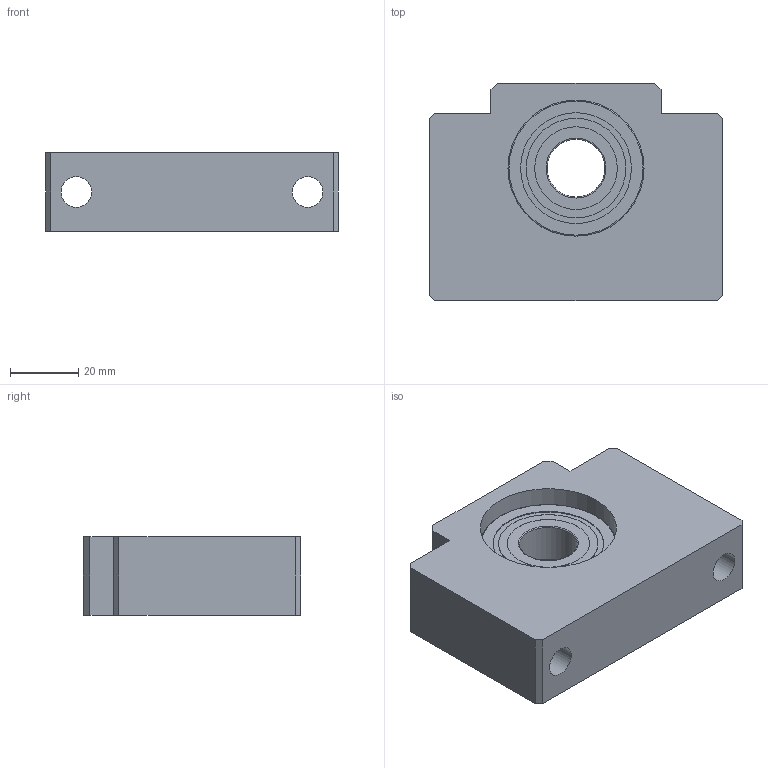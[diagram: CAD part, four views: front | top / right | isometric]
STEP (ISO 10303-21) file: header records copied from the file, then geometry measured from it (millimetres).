
FILE_DESCRIPTION(/* description */ ('STEP AP214'),/* implementation_level */ '2;1');
FILE_NAME(/* name */ 'BF17',/* time_stamp */ '2026-09-17T13:13:00+02:00',/* author */ ('License CC BY-ND 4.0'),/* organization */ ('CADENAS'),/* preprocessor_version */ 'ST-DEVELOPER v20',/* originating_system */ 'PARTsolutions',/* authorisation */ ' ');
FILE_SCHEMA (('AUTOMOTIVE_DESIGN {1 0 10303 214 3 1 1}'));
Length unit declared in the file: millimetre
Products named in the file (3): BF17; BF 17 Part1; BF 17 Part2
Assembly tree (2 placements, depth 2):
  BF17
    BF 17 Part1
    BF 17 Part2
Bounding box: 86 x 64 x 23 mm (x, y, z)
Volume: 93765.6 mm3; surface area: 24870.5 mm2
Topology: 2 solids, 2 shells, 43 faces, 90 edges, 59 vertices
Faces by surface type: plane 26, cylinder 13, torus 4
Full cylindrical faces by diameter (mm): 9 x2, 14 x2, 17 x1, 24.3 x2, 29.3 x2, 32.6 x2, 40 x2
Entity records: 1147 total; most frequent: DIRECTION 194, CARTESIAN_POINT 176, ORIENTED_EDGE 144, EDGE_LOOP 76, FACE_BOUND 76, AXIS2_PLACEMENT_3D 76, EDGE_CURVE 72, VERTEX_POINT 58
